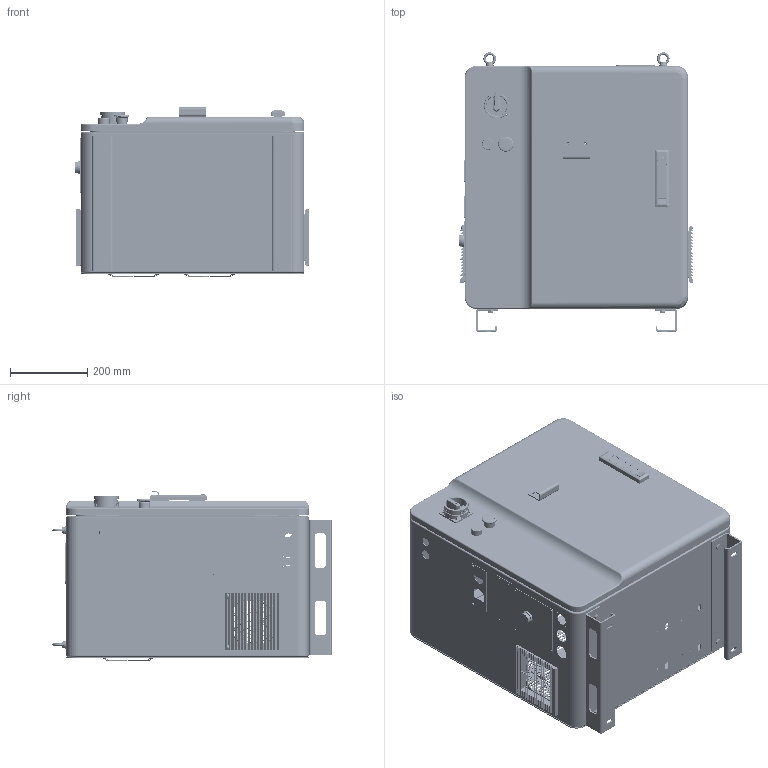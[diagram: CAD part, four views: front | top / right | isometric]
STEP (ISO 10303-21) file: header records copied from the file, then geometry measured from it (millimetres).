
FILE_DESCRIPTION(/* description */ (''),/* implementation_level */ '2;1');
FILE_NAME(/* name */ 'D型电柜 MD-500.stp',/* time_stamp */ '2025-07-03T14:36:37+08:00',/* author */ (''),/* organization */ (''),/* preprocessor_version */ 'ST-DEVELOPER v16.7',/* originating_system */ 'SIEMENS PLM Software NX 12.0',/* authorisation */ '');
FILE_SCHEMA (('AUTOMOTIVE_DESIGN { 1 0 10303 214 3 1 1 1 }'));
Products named in the file (1): 12314445
Bounding box: 608.15 x 723.75 x 439.08 mm (x, y, z)
Volume: 4252246.8 mm3; surface area: 4570904.8 mm2
Topology: 95 solids, 99 shells, 10609 faces, 28703 edges, 18066 vertices
Faces by surface type: plane 5947, cylinder 3231, torus 659, cone 332, sphere 241, bspline 187, extrusion 12
Full cylindrical faces by diameter (mm): 1.2 x2, 1.5 x6, 1.6 x2, 2 x8, 2.077 x1, 2.1 x2, 2.5 x24, 2.6 x2, 2.8 x1, 3.077 x1, 3.2 x43, 3.3 x12, 3.5 x6, 3.6 x2, 4 x7, 4.2 x15, 4.475 x2, 4.5 x4, 4.6 x10, 4.7 x4, 5 x46, 5.3 x4, 5.375 x10, 5.5 x12, 5.9 x14, 6 x28, 6.09 x1, 6.5 x11, 6.985 x8, 7 x2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
Entity records: 366158 total; most frequent: CARTESIAN_POINT 91193, ORIENTED_EDGE 55504, DIRECTION 54180, EDGE_CURVE 27752, AXIS2_PLACEMENT_3D 18297, VERTEX_POINT 17822, VECTOR 17586, LINE 17574
